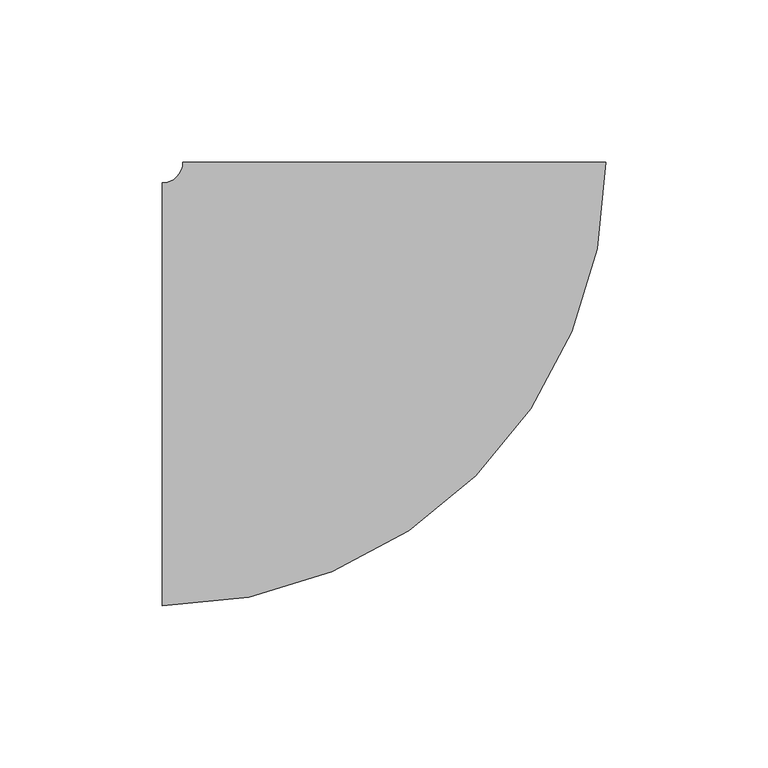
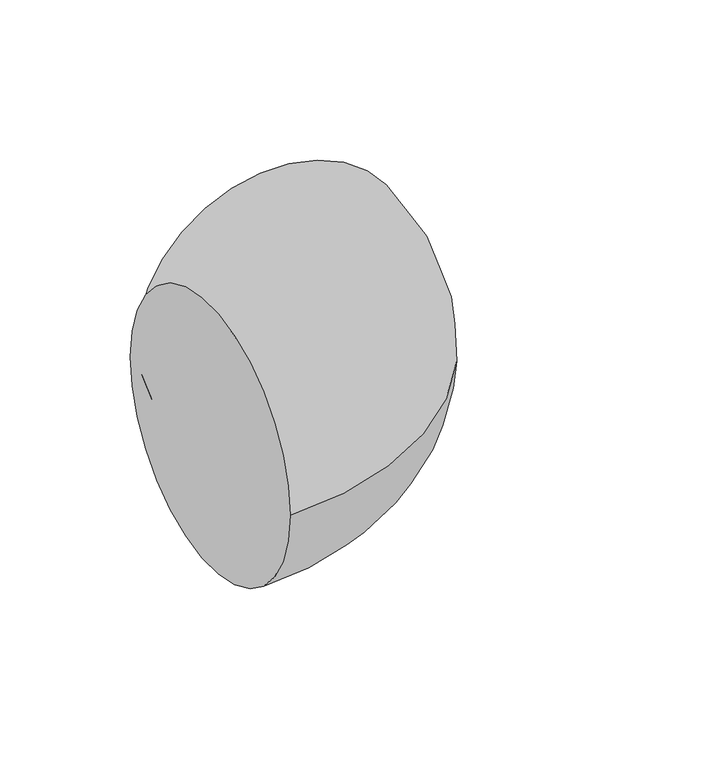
"""IFC4 building model written with IfcOpenShell, lengths in millimetres: pipe fitting geometry, M_Codo - Genérico : Estándar."""

import ifcopenshell
import ifcopenshell.guid

model = None  # the IFC model being written
_history = None  # IfcOwnerHistory: only IFC2X3 demands one
_inside = {}  # id of a spatial element -> (the spatial element, [elements in it])
_under = {}  # id of a project, library or spatial element -> (it, [spatial elements below it])
_declared = {}  # id of a project -> (the project, [libraries it declares])
_typed = {}  # id of a type object -> (the type object, [elements of that type])
_made_of = {}  # id of a material, layer set ... -> (it, [elements and type objects made of it])


def new_model(schema):
    """Start an empty IFC model of exactly this schema.

    Asked for "IFC4X3", IfcOpenShell would pick the latest addendum, in which some entities
    have other attributes; the version numbers below select the first issue.
    IFC2X3 requires an IfcOwnerHistory on every rooted entity: one is made here for all.
    """
    global model, _history
    if schema == "IFC4X3":
        model = ifcopenshell.file(schema_version=(4, 3, 0, 0))
    else:
        model = ifcopenshell.file(schema=schema)
    _inside.clear()
    _under.clear()
    _declared.clear()
    _typed.clear()
    _made_of.clear()
    _history = None
    if model.schema == "IFC2X3":
        org = make("IfcOrganization", Name="unknown")
        user = make(
            "IfcPersonAndOrganization",
            ThePerson=make("IfcPerson", FamilyName="unknown"),
            TheOrganization=org,
        )
        app = make(
            "IfcApplication",
            ApplicationDeveloper=org,
            Version="unknown",
            ApplicationFullName="unknown",
            ApplicationIdentifier="unknown",
        )
        _history = make(
            "IfcOwnerHistory",
            OwningUser=user,
            OwningApplication=app,
            ChangeAction="ADDED",
            CreationDate=0,
        )
    return model


def make(cls, **values):
    """One entity of the class cls with the attributes given. An attribute that is None is left unset."""
    return model.create_entity(
        cls, **{name: value for name, value in values.items() if value is not None}
    )


def rooted(cls, **values):
    """An entity with a GlobalId (a new one), such as an element, a storey or a relation."""
    return make(cls, GlobalId=ifcopenshell.guid.new(), OwnerHistory=_history, **values)


def si_unit(unit_type, name, prefix=None):
    """IfcSIUnit, for example si_unit("LENGTHUNIT", "METRE", prefix="MILLI")."""
    return make("IfcSIUnit", UnitType=unit_type, Prefix=prefix, Name=name)


def assignment(units):
    """IfcUnitAssignment: the units of a project."""
    return None if units is None else make("IfcUnitAssignment", Units=units)


def point(xyz):
    """IfcCartesianPoint."""
    return None if xyz is None else make("IfcCartesianPoint", Coordinates=xyz)


def direction(xyz):
    """IfcDirection."""
    return None if xyz is None else make("IfcDirection", DirectionRatios=xyz)


def frame(location, z_axis=None, x_axis=None):
    """IfcAxis2Placement3D, a coordinate frame: its origin and axes. An axis left out is left unset."""
    return make(
        "IfcAxis2Placement3D",
        Location=point(location),
        Axis=direction(z_axis),
        RefDirection=direction(x_axis),
    )


def origin():
    """The frame at (0, 0, 0) with its axes left unset."""
    return frame((0.0, 0.0, 0.0))


def place(relative_to, where):
    """IfcLocalPlacement: puts the frame where relative to a parent placement (None: the world)."""
    return make(
        "IfcLocalPlacement", PlacementRelTo=relative_to, RelativePlacement=where
    )


def context(
    kind, dimensions, precision=None, world=None, true_north=None, identifier=None
):
    """IfcGeometricRepresentationContext, for example the 3D "Model" context."""
    return make(
        "IfcGeometricRepresentationContext",
        ContextIdentifier=identifier,
        ContextType=kind,
        CoordinateSpaceDimension=dimensions,
        Precision=precision,
        WorldCoordinateSystem=world,
        TrueNorth=true_north,
    )


def project(units=None, contexts=None):
    """IfcProject with its units and contexts."""
    return rooted(
        "IfcProject",
        Name="project",
        RepresentationContexts=contexts,
        UnitsInContext=assignment(units),
    )


def spatial(cls, under=None, at=None, **own):
    """A site, building, storey or space (cls), placed at a placement, below another one or the project."""
    s = rooted(cls, ObjectPlacement=at, **own)
    if under is not None:
        _under.setdefault(under.id(), (under, []))[1].append(s)
    return s


def circle_curve(where, radius):
    """IfcCircle in the frame where."""
    return make("IfcCircle", Position=where, Radius=radius)


def ellipse_curve(where, semi_axis1, semi_axis2):
    """IfcEllipse in the frame where."""
    return make(
        "IfcEllipse", Position=where, SemiAxis1=semi_axis1, SemiAxis2=semi_axis2
    )


def trimmed(basis, trim1, trim2, sense, master):
    """IfcTrimmedCurve: the piece of a basis curve between two trims."""
    return make(
        "IfcTrimmedCurve",
        BasisCurve=basis,
        Trim1=trim1,
        Trim2=trim2,
        SenseAgreement=sense,
        MasterRepresentation=master,
    )


def shape(context_of_items, identifier, shape_type, items):
    """IfcShapeRepresentation: the items that make up one representation, for example the "Body"."""
    return make(
        "IfcShapeRepresentation",
        ContextOfItems=context_of_items,
        RepresentationIdentifier=identifier,
        RepresentationType=shape_type,
        Items=items,
    )


def source(mapping_origin, context_of_items, identifier, shape_type, items):
    """IfcRepresentationMap: a shape defined once, which mapped items show again and again."""
    return make(
        "IfcRepresentationMap",
        MappingOrigin=mapping_origin,
        MappedRepresentation=shape(context_of_items, identifier, shape_type, items),
    )


def transform(
    local_origin,
    x_axis=None,
    y_axis=None,
    z_axis=None,
    scale=None,
    scale2=None,
    scale3=None,
    uniform=True,
):
    """IfcCartesianTransformationOperator3D, or its non-uniform kind. x_axis, y_axis, z_axis: its Axis1, 2, 3."""
    if uniform:
        return make(
            "IfcCartesianTransformationOperator3D",
            Axis1=direction(x_axis),
            Axis2=direction(y_axis),
            LocalOrigin=point(local_origin),
            Scale=scale,
            Axis3=direction(z_axis),
        )
    return make(
        "IfcCartesianTransformationOperator3DnonUniform",
        Axis1=direction(x_axis),
        Axis2=direction(y_axis),
        LocalOrigin=point(local_origin),
        Scale=scale,
        Axis3=direction(z_axis),
        Scale2=scale2,
        Scale3=scale3,
    )


def mapped(mapping_source, mapping_target):
    """IfcMappedItem: shows the shape of a source again, moved by a transform."""
    return make(
        "IfcMappedItem", MappingSource=mapping_source, MappingTarget=mapping_target
    )


def made_of(thing, what):
    """Note that an element or type object is made of a material, layer set ...; save() writes the relation."""
    if what is not None:
        _made_of.setdefault(what.id(), (what, []))[1].append(thing)
    return thing


def element(
    cls,
    number,
    at=None,
    inside=None,
    cuts=None,
    type_object=None,
    material=None,
    context=None,
    identifier="Body",
    shape_type=None,
    held_by="IfcProductDefinitionShape",
    body=None,
    shapes=None,
    **own,
):
    """One element of the class cls, such as IfcWall. Its Tag is "e" and its number.

    at: its placement. inside: the storey or other place that contains it. cuts: it is an
    opening in that element (IfcRelVoidsElement). A single representation is given by context,
    identifier, shape_type and body (its items); several are given by shapes. held_by: the class
    of the entity that holds the representations. save() writes the other relations.
    """
    e = rooted(cls, Tag="e%d" % number, ObjectPlacement=at, **own)
    if body is not None:
        shapes = [shape(context, identifier, shape_type, body)]
    if shapes is not None:
        e.Representation = make(held_by, Representations=shapes)
    if inside is not None:
        _inside.setdefault(inside.id(), (inside, []))[1].append(e)
    if cuts is not None:
        rooted(
            "IfcRelVoidsElement", RelatingBuildingElement=cuts, RelatedOpeningElement=e
        )
    if type_object is not None:
        _typed.setdefault(type_object.id(), (type_object, []))[1].append(e)
    return made_of(e, material)


def aggregate(whole, parts):
    """IfcRelAggregates: a whole, such as a stair, and the parts it consists of."""
    return rooted("IfcRelAggregates", RelatingObject=whole, RelatedObjects=parts)


def save(model, path):
    """Write the relations noted so far, then the file.

    IfcRelAggregates (storeys below a building ...), IfcRelContainedInSpatialStructure (elements
    in a storey), IfcRelDefinesByType, IfcRelAssociatesMaterial and IfcRelDeclares: one each for
    every whole, place, type object, material and project.
    """
    for whole, parts in _under.values():
        aggregate(whole, parts)
    for where, things in _inside.values():
        rooted(
            "IfcRelContainedInSpatialStructure",
            RelatedElements=things,
            RelatingStructure=where,
        )
    for kind, things in _typed.values():
        rooted("IfcRelDefinesByType", RelatedObjects=things, RelatingType=kind)
    for what, things in _made_of.values():
        rooted("IfcRelAssociatesMaterial", RelatedObjects=things, RelatingMaterial=what)
    for by, libraries in _declared.values():
        rooted("IfcRelDeclares", RelatingContext=by, RelatedDefinitions=libraries)
    model.write(path)


def plane_surface(at):
    """IfcPlane: the flat surface through the origin of the frame at, square to its z axis."""
    return make("IfcPlane", Position=at)


def revolved_surface(curve, axis_point, axis_direction):
    """IfcSurfaceOfRevolution: the curve turned about the line through axis_point along axis_direction."""
    return make(
        "IfcSurfaceOfRevolution",
        SweptCurve=make("IfcArbitraryOpenProfileDef", ProfileType="CURVE", Curve=curve),
        AxisPosition=make("IfcAxis1Placement", Location=point(axis_point), Axis=direction(axis_direction)),
    )


def advanced_brep(points, edges, surfaces, faces):
    """IfcAdvancedBrep: a solid bounded by faces that lie on surfaces and meet in shared edges.

    An edge is (start, end): straight between two places in points (the first is 0);
    or (start, end, curve); or (start, end, curve, False) where it runs against its curve.
    A face is (place in surfaces, loops), or (place, loops, False) where it looks against
    its surface's normal. A loop lists edges by number (the first is 1), with a minus sign
    where the edge is run from its end to its start. The first loop is the outer one.
    """
    corners = [point(p) for p in points]
    vertices = [make("IfcVertexPoint", VertexGeometry=c) for c in corners]
    made = []
    for start, end, *more in edges:
        made.append(
            make(
                "IfcEdgeCurve",
                EdgeStart=vertices[start],
                EdgeEnd=vertices[end],
                EdgeGeometry=more[0] if more else make("IfcPolyline", Points=[corners[start], corners[end]]),
                SameSense=more[1] if len(more) > 1 else True,
            )
        )
    hull = []
    for where, loops, *sense in faces:
        bounds = []
        for j, loop in enumerate(loops):
            ring = [make("IfcOrientedEdge", EdgeElement=made[abs(k) - 1], Orientation=k > 0) for k in loop]
            bounds.append(
                make(
                    "IfcFaceOuterBound" if j == 0 else "IfcFaceBound",
                    Bound=make("IfcEdgeLoop", EdgeList=ring),
                    Orientation=True,
                )
            )
        hull.append(make("IfcAdvancedFace", Bounds=bounds, FaceSurface=surfaces[where], SameSense=sense[0] if sense else True))
    return make("IfcAdvancedBrep", Outer=make("IfcClosedShell", CfsFaces=hull))


def pipe_fitting_24306459(model_context):
    return source(origin(), model_context, "Body", "AdvancedBrep", [
        advanced_brep(
        [(-71.4374677, -65.0875, 0.0), (-71.4374677, 65.0875, 0.0), (65.0875323, 71.4374382, 0.0), (-65.0874677, 71.4374971, 0.0)],
        [
            (0, 1, circle_curve(frame((-71.4374677, 0.0, 0.0), z_axis=(-1.0, 0.0, 0.0), x_axis=(0.0, 1.0, 0.0)), 65.0875)),
            (1, 0, circle_curve(frame((-71.4374677, 0.0, 0.0), z_axis=(-1.0, 0.0, 0.0), x_axis=(0.0, 1.0, 0.0)), 65.0875)),
            (2, 3, circle_curve(frame((3.23e-05, 71.4374677, 0.0), z_axis=(4.523295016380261e-07, 0.9999999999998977, 0.0), x_axis=(-0.9999999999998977, 4.523295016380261e-07, 0.0)), 65.0875)),
            (3, 2, circle_curve(frame((3.23e-05, 71.4374677, 0.0), z_axis=(4.523295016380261e-07, 0.9999999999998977, 0.0), x_axis=(-0.9999999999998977, 4.523295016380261e-07, 0.0)), 65.0875)),
            (3, 1, circle_curve(frame((-71.4374677, 71.4375, 0.0), z_axis=(0.0, 0.0, -1.0), x_axis=(0.0, -1.0, 0.0)), 6.35)),
            (0, 2, circle_curve(frame((-71.4374677, 71.4375, 0.0), z_axis=(0.0, 0.0, 1.0), x_axis=(0.0, -1.0, 0.0)), 136.525)),
        ],
        [
            plane_surface(frame((-71.4374677, 0.0, 0.0), z_axis=(-1.0, 0.0, 0.0), x_axis=(0.0, 0.0, 1.0))),
            plane_surface(frame((3.23e-05, 71.4374677, 0.0), z_axis=(4.523295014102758e-07, 0.9999999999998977, 0.0), x_axis=(0.0, 0.0, 1.0))),
            revolved_surface(trimmed(ellipse_curve(frame((-71.4374677, 0.0, 0.0), z_axis=(-1.0, 0.0, 0.0), x_axis=(0.0, 1.0, 0.0)), 65.0875, 65.0875), [point((-71.4374677, -65.0875, 0.0))], [point((-71.4374677, 65.0875, 0.0))], True, "CARTESIAN"), (-71.4374677, 71.4375, 0.0), (0.0, 0.0, 1.0)),
            revolved_surface(trimmed(ellipse_curve(frame((-71.4374677, 0.0, 0.0), z_axis=(-1.0, 0.0, 0.0), x_axis=(0.0, 1.0, 0.0)), 65.0875, 65.0875), [point((-71.4374677, 65.0875, 0.0))], [point((-71.4374677, -65.0875, 0.0))], True, "CARTESIAN"), (-71.4374677, 71.4375, 0.0), (0.0, 0.0, 1.0)),
        ],
        [
            (0, [[1, 2]]),
            (1, [[3, 4]]),
            (2, [[5, -1, 6, -4]]),
            (3, [[-6, -2, -5, -3]]),
        ],
    ),
    ])


if __name__ == "__main__":
    model = new_model("IFC4")
    model_context = context("Model", 3, world=origin())
    ifc_project = project(units=[si_unit("LENGTHUNIT", "METRE", prefix="MILLI")], contexts=[model_context])
    site = spatial("IfcSite", under=ifc_project)
    building = spatial("IfcBuilding", under=site)
    placement = place(None, origin())
    pipe_fitting_shape = pipe_fitting_24306459(model_context)
    element("IfcPipeFitting", 1, ObjectType="M_Codo - Genérico : Estándar", at=placement, inside=building, context=model_context, shape_type="MappedRepresentation", body=[
        mapped(pipe_fitting_shape, transform((0.0, 0.0, 0.0), x_axis=(1.0, 0.0, 0.0), y_axis=(0.0, 1.0, 0.0), z_axis=(0.0, 0.0, 1.0))),
    ])
    save(model, "model.ifc")
